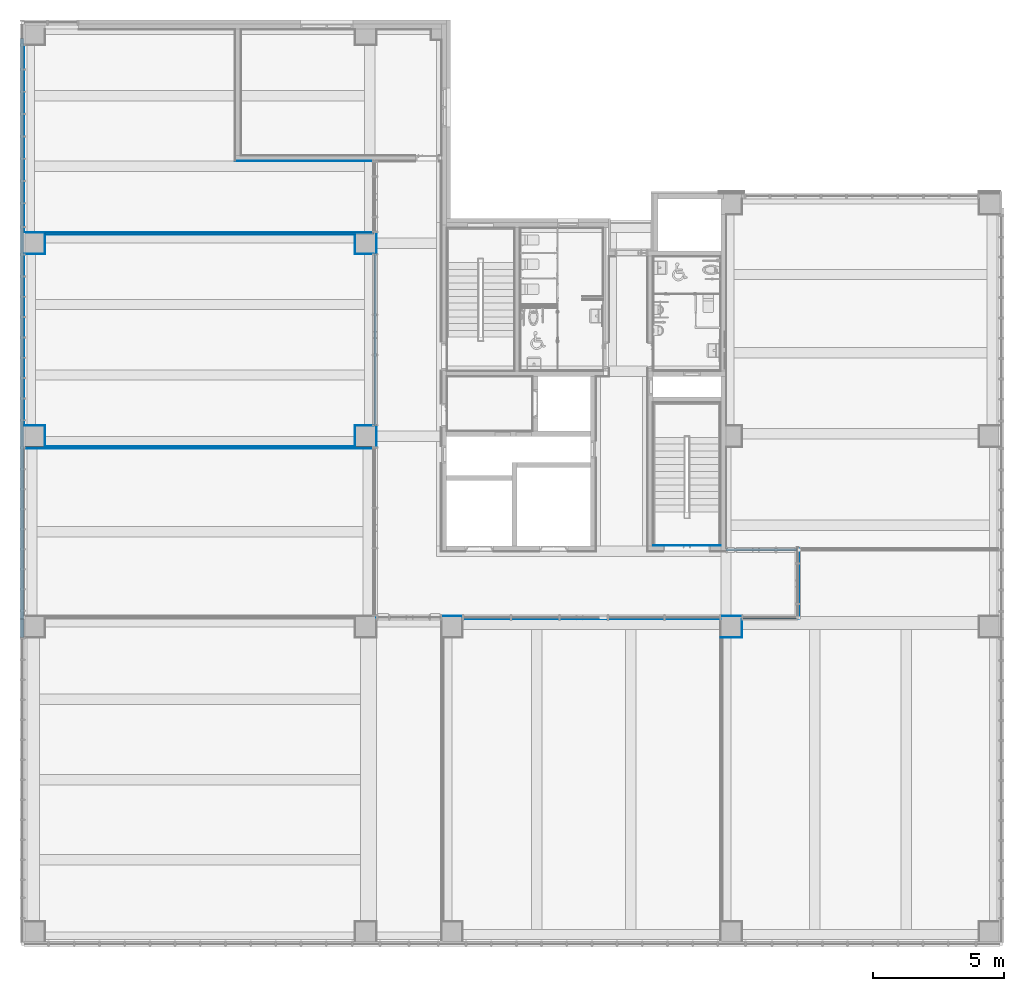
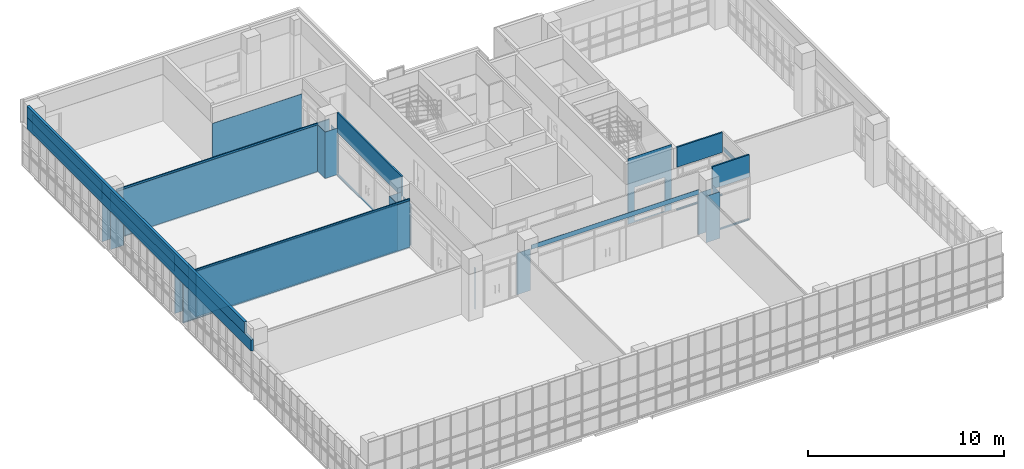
# One storey, part 47 of 76: 29 walls, 11 openings.
"""IFC2X3 building model written with IfcOpenShell, lengths in millimetres."""

from ifc_helpers import new_model, entity, si_unit, converted_unit, derived_unit, direction, frame, frame_2d, origin, place, context, subcontext, project, spatial, polyline, rectangle, outline, extrude, clip, bounded_halfspace, material, layer, layer_set, layer_usage, type_object, element, save


model = new_model("IFC2X3")

# Units and contexts
model_context = context("Model", 3, precision=0.01, world=origin(), true_north=direction((6.123031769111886e-17, 1.0)))
body_context = subcontext(model_context, "Body", "Model", "MODEL_VIEW")
ifc_project = project(units=[si_unit("LENGTHUNIT", "METRE", prefix="MILLI"), si_unit("AREAUNIT", "SQUARE_METRE"), si_unit("VOLUMEUNIT", "CUBIC_METRE"), converted_unit("PLANEANGLEUNIT", "DEGREE", entity("IfcRatioMeasure", 0.017453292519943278), si_unit("PLANEANGLEUNIT", "RADIAN"), dimensions=[0, 0, 0, 0, 0, 0, 0]), si_unit("MASSUNIT", "GRAM", prefix="KILO"), derived_unit("MASSDENSITYUNIT", [(si_unit("MASSUNIT", "GRAM", prefix="KILO"), 1), (si_unit("LENGTHUNIT", "METRE"), -3)]), derived_unit("MOMENTOFINERTIAUNIT", [(si_unit("LENGTHUNIT", "METRE"), 4)]), si_unit("TIMEUNIT", "SECOND"), si_unit("FREQUENCYUNIT", "HERTZ"), si_unit("THERMODYNAMICTEMPERATUREUNIT", "DEGREE_CELSIUS"), derived_unit("THERMALTRANSMITTANCEUNIT", [(si_unit("MASSUNIT", "GRAM", prefix="KILO"), 1), (si_unit("THERMODYNAMICTEMPERATUREUNIT", "KELVIN"), -1), (si_unit("TIMEUNIT", "SECOND"), -3)]), derived_unit("VOLUMETRICFLOWRATEUNIT", [(si_unit("LENGTHUNIT", "METRE"), 3), (si_unit("TIMEUNIT", "SECOND"), -1)]), derived_unit("MASSFLOWRATEUNIT", [(si_unit("MASSUNIT", "GRAM", prefix="KILO"), 1), (si_unit("TIMEUNIT", "SECOND"), -1)]), derived_unit("ROTATIONALFREQUENCYUNIT", [(si_unit("TIMEUNIT", "SECOND"), -1)]), si_unit("ELECTRICCURRENTUNIT", "AMPERE"), si_unit("ELECTRICVOLTAGEUNIT", "VOLT"), si_unit("POWERUNIT", "WATT"), si_unit("FORCEUNIT", "NEWTON", prefix="KILO"), si_unit("ILLUMINANCEUNIT", "LUX"), si_unit("LUMINOUSFLUXUNIT", "LUMEN"), si_unit("LUMINOUSINTENSITYUNIT", "CANDELA"), derived_unit("USERDEFINED", [(si_unit("MASSUNIT", "GRAM", prefix="KILO"), -1), (si_unit("LENGTHUNIT", "METRE"), -2), (si_unit("TIMEUNIT", "SECOND"), 3), (si_unit("LUMINOUSFLUXUNIT", "LUMEN"), 1)]), derived_unit("SOUNDPOWERUNIT", [(si_unit("MASSUNIT", "GRAM", prefix="KILO"), 1), (si_unit("LENGTHUNIT", "METRE"), 2), (si_unit("TIMEUNIT", "SECOND"), -3)]), derived_unit("SOUNDPRESSUREUNIT", [(si_unit("MASSUNIT", "GRAM", prefix="KILO"), 1), (si_unit("LENGTHUNIT", "METRE"), -1), (si_unit("TIMEUNIT", "SECOND"), -2)]), derived_unit("LINEARVELOCITYUNIT", [(si_unit("LENGTHUNIT", "METRE"), 1), (si_unit("TIMEUNIT", "SECOND"), -1)]), si_unit("PRESSUREUNIT", "PASCAL"), derived_unit("USERDEFINED", [(si_unit("LENGTHUNIT", "METRE"), -2), (si_unit("MASSUNIT", "GRAM", prefix="KILO"), 1), (si_unit("TIMEUNIT", "SECOND"), -2)]), derived_unit("LINEARFORCEUNIT", [(si_unit("MASSUNIT", "GRAM", prefix="KILO"), 1), (si_unit("LENGTHUNIT", "METRE"), 1), (si_unit("TIMEUNIT", "SECOND"), -2), (si_unit("LENGTHUNIT", "METRE"), -1)]), derived_unit("PLANARFORCEUNIT", [(si_unit("MASSUNIT", "GRAM", prefix="KILO"), 1), (si_unit("LENGTHUNIT", "METRE"), 1), (si_unit("TIMEUNIT", "SECOND"), -2), (si_unit("LENGTHUNIT", "METRE"), -2)])], contexts=[model_context])

# Site, building, storey
site_placement = place(None, frame((-14167.972527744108, -657.2125860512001, 0.0)))
site = spatial("IfcSite", under=ifc_project, at=site_placement, Name="Default", CompositionType="ELEMENT")
building_placement = place(site_placement, origin())
building = spatial("IfcBuilding", under=site, at=building_placement, Name="Sample Building", CompositionType="ELEMENT")
storey_placement = place(building_placement, frame((0.0, 0.0, 9300.0)))
storey = spatial("IfcBuildingStorey", under=building, at=storey_placement, Name="지상 3층", CompositionType="ELEMENT", Elevation=9300.000000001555)

# Walls
ifc_material_1 = material(Name="WA240-ALC블록벽")
ifc_layer_1 = layer(ifc_material_1, 35.0)
ifc_material_2 = material(Name="WA795-(STEEL)BRACKET")
ifc_layer_2 = layer(ifc_material_2, 65.0)
ifc_material_3 = material(Name="WA821-압출스티로폼 벽 (본드붙임, 비중0.03) 50mm")
ifc_layer_3 = layer(ifc_material_3, 50.0)
ifc_layer_set_1 = layer_set([ifc_layer_1, ifc_layer_2, ifc_layer_3], Name="기본 벽:A2-22-02A-압출스티로폼, BRACKET(STEEL), ALC블록 (150mm)")
ifc_layer_usage_1 = layer_usage(ifc_layer_set_1, "AXIS2", "POSITIVE", -75.0)
wall_type_1 = type_object("IfcWallType", Name="기본 벽:A2-22-02A-압출스티로폼, BRACKET(STEEL), ALC블록 (150mm)", PredefinedType="STANDARD", material=ifc_layer_set_1)
wall_1_placement = place(storey_placement, frame((13992.955105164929, 35207.21229514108, 3400.0), z_axis=(0.0, 0.0, 1.0), x_axis=(0.0, -1.0, 0.0)))
element("IfcWallStandardCase", 1, at=wall_1_placement, inside=storey, type_object=wall_type_1, material=ifc_layer_usage_1, Name="기본 벽:A2-22-02A-압출스티로폼, BRACKET(STEEL), ALC블록 (150mm)", ObjectType="기본 벽:A2-22-02A-압출스티로폼, BRACKET(STEEL), ALC블록 (150mm)", context=body_context, shape_type="SweptSolid", body=[
    extrude(rectangle(XDim=22250.03467074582, YDim=150.00000000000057, at=frame_2d((11125.01733537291, -6.181721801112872e-13), x_axis=(-1.0, 0.0))), origin(), (0.0, 0.0, 1.0), 700.000000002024),
])
ifc_material_4 = material(Name="KBIMS-DRY WALL")
ifc_layer_4 = layer(ifc_material_4, 12.5)
ifc_material_5 = material(Name="KBIMS-경량철골벽틀")
ifc_layer_5 = layer(ifc_material_5, 50.0)
ifc_layer_set_2 = layer_set([ifc_layer_4, ifc_layer_5], Name="기본 벽:WA731-DRY WALL(C50, GS12.5mm) (1겹한면, GW50mm) 62.5mm")
ifc_layer_usage_2 = layer_usage(ifc_layer_set_2, "AXIS2", "NEGATIVE", 31.250000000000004)
wall_type_2 = type_object("IfcWallType", Name="기본 벽:WA731-DRY WALL(C50, GS12.5mm) (1겹한면, GW50mm) 62.5mm", PredefinedType="STANDARD", material=ifc_layer_set_2)
wall_2_placement = place(storey_placement, frame((14867.972454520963, 27725.962586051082, -2.2989269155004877e-09)))
element("IfcWallStandardCase", 2, at=wall_2_placement, inside=storey, type_object=wall_type_2, material=ifc_layer_usage_2, Name="기본 벽:WA731-DRY WALL(C50, GS12.5mm) (1겹한면, GW50mm) 62.5mm", ObjectType="기본 벽:WA731-DRY WALL(C50, GS12.5mm) (1겹한면, GW50mm) 62.5mm", context=body_context, shape_type="SweptSolid", body=[
    extrude(rectangle(XDim=12600.007860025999, YDim=62.499999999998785, at=frame_2d((6300.003930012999, 2.168931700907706e-12), x_axis=(-1.0, 0.0))), origin(), (0.0, 0.0, 1.0), 3100.000000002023),
])
ifc_layer_usage_3 = layer_usage(ifc_layer_set_2, "AXIS2", "NEGATIVE", 31.250000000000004)
wall_3_placement = place(storey_placement, frame((14067.955105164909, 19525.9626170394, -2.2989269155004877e-09)))
element("IfcWallStandardCase", 3, at=wall_3_placement, inside=storey, type_object=wall_type_2, material=ifc_layer_usage_3, Name="기본 벽:WA731-DRY WALL(C50, GS12.5mm) (1겹한면, GW50mm) 62.5mm", ObjectType="기본 벽:WA731-DRY WALL(C50, GS12.5mm) (1겹한면, GW50mm) 62.5mm", context=body_context, shape_type="SweptSolid", body=[
    extrude(rectangle(XDim=13409.999999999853, YDim=62.49999999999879, at=frame_2d((6704.999999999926, 1.099564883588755e-12), x_axis=(-1.0, 0.0))), origin(), (0.0, 0.0, 1.0), 3100.000000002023),
])
ifc_material_6 = material(Name="WA785-금속외장패널")
ifc_layer_6 = layer(ifc_material_6, 25.0)
ifc_material_7 = material(Name="WA793-금속 긴결철물 벽")
ifc_layer_7 = layer(ifc_material_7, 75.0)
ifc_layer_8 = layer(ifc_material_3, 50.0)
ifc_layer_set_3 = layer_set([ifc_layer_6, ifc_layer_7, ifc_layer_8], Name="기본 벽:A2-26-01A-압출스티로폼, 금속 긴결철물, 금속외장패널 (150mm)")
ifc_layer_usage_4 = layer_usage(ifc_layer_set_3, "AXIS2", "POSITIVE", -75.0)
wall_type_3 = type_object("IfcWallType", Name="기본 벽:A2-26-01A-압출스티로폼, 금속 긴결철물, 금속외장패널 (150mm)", PredefinedType="STANDARD", material=ifc_layer_set_3)
wall_4_placement = place(storey_placement, frame((13992.955105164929, 35207.21229514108, 2700.0), z_axis=(0.0, 0.0, 1.0), x_axis=(0.0, -1.0, 0.0)))
element("IfcWallStandardCase", 4, at=wall_4_placement, inside=storey, type_object=wall_type_3, material=ifc_layer_usage_4, Name="기본 벽:A2-26-01A-압출스티로폼, 금속 긴결철물, 금속외장패널 (150mm)", ObjectType="기본 벽:A2-26-01A-압출스티로폼, 금속 긴결철물, 금속외장패널 (150mm)", context=body_context, shape_type="SweptSolid", body=[
    extrude(rectangle(XDim=22949.999709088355, YDim=150.00000000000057, at=frame_2d((11474.999854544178, 0.0), x_axis=(-1.0, 0.0))), origin(), (0.0, 0.0, 1.0), 700.000000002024),
])

# Wall, openings
ifc_material_8 = material(Name="KBIMS-시멘트 벽돌")
ifc_layer_9 = layer(ifc_material_8, 90.0)
ifc_layer_set_4 = layer_set([ifc_layer_9], Name="기본 벽:WA211-시멘트벽돌(일반) 벽 (0.5B) 90mm")
ifc_layer_usage_5 = layer_usage(ifc_layer_set_4, "AXIS2", "NEGATIVE", 45.0)
wall_type_4 = type_object("IfcWallType", Name="기본 벽:WA211-시멘트벽돌(일반) 벽 (0.5B) 90mm", PredefinedType="STANDARD", material=ifc_layer_set_4)
wall_5_placement = place(storey_placement, frame((27522.955105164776, 26957.21230799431, -2.297844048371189e-09), z_axis=(0.0, 0.0, 1.0), x_axis=(0.0, -1.0, 0.0)))
wall_5 = element("IfcWallStandardCase", 5, at=wall_5_placement, inside=storey, type_object=wall_type_4, material=ifc_layer_usage_5, Name="기본 벽:WA211-시멘트벽돌(일반) 벽 (0.5B) 90mm", ObjectType="기본 벽:WA211-시멘트벽돌(일반) 벽 (0.5B) 90mm", context=body_context, shape_type="Clipping", body=[
    clip(extrude(rectangle(XDim=6599.999999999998, YDim=90.0000000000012, at=frame_2d((3299.999999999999, -1.9682033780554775e-12), x_axis=(-1.0, 0.0))), origin(), (0.0, 0.0, 1.0), 3950.0000000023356), bounded_halfspace(frame((0.0, -45.0, 3950.0), z_axis=(0.0, 0.0, -1.0), x_axis=(0.0, 1.0, 0.0)), True, frame((0.0, -45.0, 3950.0), z_axis=(0.0, 0.0, -1.0), x_axis=(0.0, 1.0, 0.0)), polyline([(0.0, 0.0), (27432.0, 0.0), (27432.0, 2011680.0), (-2.6400300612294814e-09, 2011680.0), (0.0, 0.0)]))),
])
opening_1_placement = place(wall_5_placement, origin())
element("IfcOpeningElement", 6, at=opening_1_placement, cuts=wall_5, Name="기본 벽:WA211-시멘트벽돌(일반) 벽 (0.5B) 90mm", ObjectType="Opening", context=body_context, shape_type="SweptSolid", body=[
    extrude(rectangle(XDim=2620.000000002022, YDim=6599.999999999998, at=frame_2d((-5.684341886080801e-13, 0.0), x_axis=(1.0, 0.0))), frame((3300.0, -197.4000000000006, 1390.0), z_axis=(0.0, 1.0, 0.0), x_axis=(0.0, 0.0, 1.0)), (0.0, 0.0, 1.0), 394.8000000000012),
])
opening_2_placement = place(wall_5_placement, origin())
element("IfcOpeningElement", 7, at=opening_2_placement, cuts=wall_5, Name="기본 벽:WA211-시멘트벽돌(일반) 벽 (0.5B) 90mm", ObjectType="Opening", context=body_context, shape_type="SweptSolid", body=[
    extrude(rectangle(XDim=2620.0000000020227, YDim=2749.9999672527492, at=frame_2d((-1.1368683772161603e-12, -2.1600499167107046e-12), x_axis=(1.0, 0.0))), frame((-2174.999983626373, -197.40000000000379, 1390.0), z_axis=(0.0, 1.0, 0.0), x_axis=(0.0, 0.0, 1.0)), (0.0, 0.0, 1.0), 394.8000000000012),
])
opening_3_placement = place(wall_5_placement, origin())
element("IfcOpeningElement", 8, at=opening_3_placement, cuts=wall_5, Name="기본 벽:WA211-시멘트벽돌(일반) 벽 (0.5B) 90mm", ObjectType="Opening", context=body_context, shape_type="SweptSolid", body=[
    extrude(rectangle(XDim=2620.0000000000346, YDim=6500.034992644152, at=frame_2d((1.1368683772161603e-12, 0.0), x_axis=(1.0, 0.0))), frame((10650.017187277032, -197.40000000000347, 1390.0), z_axis=(0.0, 1.0, 0.0), x_axis=(0.0, 0.0, 1.0)), (0.0, 0.0, 1.0), 394.8000000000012),
])

# Wall, opening
ifc_layer_usage_6 = layer_usage(ifc_layer_set_4, "AXIS2", "NEGATIVE", 45.0)
wall_6_placement = place(storey_placement, frame((41567.955135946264, 13012.212383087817, -2.297844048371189e-09)))
wall_6 = element("IfcWallStandardCase", 9, at=wall_6_placement, inside=storey, type_object=wall_type_4, material=ifc_layer_usage_6, Name="기본 벽:WA211-시멘트벽돌(일반) 벽 (0.5B) 90mm", ObjectType="기본 벽:WA211-시멘트벽돌(일반) 벽 (0.5B) 90mm", context=body_context, shape_type="SweptSolid", body=[
    extrude(rectangle(XDim=2195.0173551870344, YDim=89.99999999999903, at=frame_2d((1097.5086775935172, 9.627854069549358e-13), x_axis=(-1.0, 0.0))), origin(), (0.0, 0.0, 1.0), 4100.0000000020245),
])
opening_4_placement = place(wall_6_placement, origin())
element("IfcOpeningElement", 10, at=opening_4_placement, cuts=wall_6, Name="기본 벽:WA211-시멘트벽돌(일반) 벽 (0.5B) 90mm", ObjectType="Opening", context=body_context, shape_type="SweptSolid", body=[
    extrude(rectangle(XDim=2620.0000000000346, YDim=2249.9999999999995, at=frame_2d((1.1368683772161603e-12, 4.320099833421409e-12), x_axis=(1.0, 0.0))), frame((1125.0025995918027, -197.39999999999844, 1390.0), z_axis=(0.0, 1.0, 0.0), x_axis=(0.0, 0.0, 1.0)), (0.0, 0.0, 1.0), 394.79999999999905),
])

# Wall, openings
ifc_layer_usage_7 = layer_usage(ifc_layer_set_4, "AXIS2", "POSITIVE", -45.0)
wall_7_placement = place(storey_placement, frame((43672.9724911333, 15607.177678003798, -2.297844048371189e-09), z_axis=(0.0, 0.0, 1.0), x_axis=(-1.0, 0.0, 0.0)))
wall_7 = element("IfcWallStandardCase", 11, at=wall_7_placement, inside=storey, type_object=wall_type_4, material=ifc_layer_usage_7, Name="기본 벽:WA211-시멘트벽돌(일반) 벽 (0.5B) 90mm", ObjectType="기본 벽:WA211-시멘트벽돌(일반) 벽 (0.5B) 90mm", context=body_context, shape_type="Clipping", body=[
    clip(extrude(rectangle(XDim=2705.008692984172, YDim=89.99999999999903, at=frame_2d((1352.504346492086, 1.0480505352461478e-12), x_axis=(-1.0, 0.0))), origin(), (0.0, 0.0, 1.0), 3950.0000000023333), bounded_halfspace(frame((0.0, -45.0, 3950.0), z_axis=(0.0, 0.0, -1.0), x_axis=(0.0, 1.0, 0.0)), True, frame((0.0, -45.0, 3950.0), z_axis=(0.0, 0.0, -1.0), x_axis=(0.0, 1.0, 0.0)), polyline([(0.0, 0.0), (27432.0, 0.0), (27432.0, 824486.6496215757), (-4.816592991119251e-09, 824486.6496215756), (0.0, 0.0)]))),
])
opening_5_placement = place(wall_7_placement, origin())
element("IfcOpeningElement", 12, at=opening_5_placement, cuts=wall_7, Name="기본 벽:WA211-시멘트벽돌(일반) 벽 (0.5B) 90mm", ObjectType="Opening", context=body_context, shape_type="SweptSolid", body=[
    extrude(rectangle(XDim=2099.9999999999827, YDim=1800.0000000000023, at=frame_2d((-5.684341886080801e-13, -2.1600499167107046e-12), x_axis=(1.0, 0.0))), frame((4205.008692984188, -1479.0345635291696, 1130.0), z_axis=(0.0, 1.0, 0.0), x_axis=(0.0, 0.0, 1.0)), (0.0, 0.0, 1.0), 3048.0),
])
opening_6_placement = place(wall_7_placement, origin())
element("IfcOpeningElement", 13, at=opening_6_placement, cuts=wall_7, Name="기본 벽:WA211-시멘트벽돌(일반) 벽 (0.5B) 90mm", ObjectType="Opening", context=body_context, shape_type="SweptSolid", body=[
    extrude(rectangle(XDim=2619.999999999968, YDim=2849.999999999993, at=frame_2d((-5.684341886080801e-13, 0.0), x_axis=(1.0, 0.0))), frame((1280.0086929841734, -197.39999999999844, 1390.0), z_axis=(0.0, 1.0, 0.0), x_axis=(0.0, 0.0, 1.0)), (0.0, 0.0, 1.0), 394.79999999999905),
])

ifc_material_9 = material(Name="WA611-수성페인트 (내부) 벽 (3회)")
ifc_layer_10 = layer(ifc_material_9, 1.0)
ifc_material_10 = material(Name="WA551-시멘트모르타르 (내부) 벽 18mm")
ifc_layer_11 = layer(ifc_material_10, 16.0)
ifc_material_11 = material(Name="WA555-콘크리트면정리 벽 (내부)")
ifc_layer_12 = layer(ifc_material_11, 1.0)
ifc_layer_set_5 = layer_set([ifc_layer_10, ifc_layer_11, ifc_layer_12], Name="기본 벽:A1-32-06A-콘크리트면정리, 시멘트모르타르(미장용), 수성페인트(내부) (18mm)")
ifc_layer_usage_8 = layer_usage(ifc_layer_set_5, "AXIS2", "POSITIVE", -9.000000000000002)
wall_type_5 = type_object("IfcWallType", Name="기본 벽:A1-32-06A-콘크리트면정리, 시멘트모르타르(미장용), 수성페인트(내부) (18mm)", PredefinedType="STANDARD", material=ifc_layer_set_5)
wall_8_placement = place(storey_placement, frame((40767.71145792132, 15766.212295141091, 0.0), z_axis=(0.0, 0.0, 1.0), x_axis=(-1.0, 0.0, 0.0)))
wall_8 = element("IfcWallStandardCase", 14, at=wall_8_placement, inside=storey, type_object=wall_type_5, material=ifc_layer_usage_8, Name="기본 벽:A1-32-06A-콘크리트면정리, 시멘트모르타르(미장용), 수성페인트(내부) (18mm)", ObjectType="기본 벽:A1-32-06A-콘크리트면정리, 시멘트모르타르(미장용), 수성페인트(내부) (18mm)", context=body_context, shape_type="SweptSolid", body=[
    extrude(rectangle(XDim=2582.008673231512, YDim=18.000000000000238, at=frame_2d((1291.004336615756, 0.0), x_axis=(-1.0, 0.0))), origin(), (0.0, 0.0, 1.0), 4100.000000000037),
])
opening_7_placement = place(wall_8_placement, origin())
element("IfcOpeningElement", 15, at=opening_7_placement, cuts=wall_8, Name="기본 벽:A1-32-06A-콘크리트면정리, 시멘트모르타르(미장용), 수성페인트(내부) (18mm)", ObjectType="Opening", context=body_context, shape_type="SweptSolid", body=[
    extrude(rectangle(XDim=2099.9999999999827, YDim=1800.0000000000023, at=frame_2d((-5.684341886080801e-13, -2.1600499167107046e-12), x_axis=(1.0, 0.0))), frame((1299.7476597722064, -1319.9999463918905, 1130.0), z_axis=(0.0, 1.0, 0.0), x_axis=(0.0, 0.0, 1.0)), (0.0, 0.0, 1.0), 3048.0),
])
opening_8_placement = place(wall_8_placement, origin())
element("IfcOpeningElement", 16, at=opening_8_placement, cuts=wall_8, Name="기본 벽:A1-32-06A-콘크리트면정리, 시멘트모르타르(미장용), 수성페인트(내부) (18mm)", ObjectType="Opening", context=body_context, shape_type="SweptSolid", body=[
    extrude(rectangle(XDim=2619.999999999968, YDim=2849.999999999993, at=frame_2d((-5.684341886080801e-13, 0.0), x_axis=(1.0, 0.0))), frame((-1625.2523402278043, -161.40000000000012, 1390.0), z_axis=(0.0, 1.0, 0.0), x_axis=(0.0, 0.0, 1.0)), (0.0, 0.0, 1.0), 322.80000000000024),
])

# Walls
ifc_layer_usage_9 = layer_usage(ifc_layer_set_5, "AXIS2", "NEGATIVE", 9.000000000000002)
wall_9_placement = place(storey_placement, frame((27459.980314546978, 30498.21227524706, 80.0), z_axis=(0.0, 0.0, 1.0), x_axis=(-1.0, 0.0, 0.0)))
element("IfcWallStandardCase", 17, at=wall_9_placement, inside=storey, type_object=wall_type_5, material=ifc_layer_usage_9, Name="기본 벽:A1-32-06A-콘크리트면정리, 시멘트모르타르(미장용), 수성페인트(내부) (18mm)", ObjectType="기본 벽:A1-32-06A-콘크리트면정리, 시멘트모르타르(미장용), 수성페인트(내부) (18mm)", context=body_context, shape_type="SweptSolid", body=[
    extrude(rectangle(XDim=5310.00782341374, YDim=18.00000000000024, at=frame_2d((2655.00391170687, -2.1662671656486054e-12), x_axis=(-1.0, 0.0))), origin(), (0.0, 0.0, 1.0), 2899.999999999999),
])
ifc_layer_usage_10 = layer_usage(ifc_layer_set_5, "AXIS2", "NEGATIVE", 9.000000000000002)
wall_10_placement = place(storey_placement, frame((14067.95510516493, 27766.21230799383, 80.0)))
element("IfcWallStandardCase", 18, at=wall_10_placement, inside=storey, type_object=wall_type_5, material=ifc_layer_usage_10, Name="기본 벽:A1-32-06A-콘크리트면정리, 시멘트모르타르(미장용), 수성페인트(내부) (18mm)", ObjectType="기본 벽:A1-32-06A-콘크리트면정리, 시멘트모르타르(미장용), 수성페인트(내부) (18mm)", context=body_context, shape_type="SweptSolid", body=[
    extrude(rectangle(XDim=13392.025209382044, YDim=18.00000000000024, at=frame_2d((6696.012604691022, -2.097877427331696e-12), x_axis=(-1.0, 0.0))), origin(), (0.0, 0.0, 1.0), 2899.999999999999),
])
ifc_layer_usage_11 = layer_usage(ifc_layer_set_5, "AXIS2", "NEGATIVE", 9.000000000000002)
wall_11_placement = place(storey_placement, frame((27478.06176345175, 26948.21230799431, 80.0), z_axis=(0.0, 0.0, 1.0), x_axis=(-1.0, 0.0, 0.0)))
element("IfcWallStandardCase", 19, at=wall_11_placement, inside=storey, type_object=wall_type_5, material=ifc_layer_usage_11, Name="기본 벽:A1-32-06A-콘크리트면정리, 시멘트모르타르(미장용), 수성페인트(내부) (18mm)", ObjectType="기본 벽:A1-32-06A-콘크리트면정리, 시멘트모르타르(미장용), 수성페인트(내부) (18mm)", context=body_context, shape_type="SweptSolid", body=[
    extrude(rectangle(XDim=728.106621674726, YDim=18.00000000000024, at=frame_2d((364.053310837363, -2.1662671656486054e-12), x_axis=(-1.0, 0.0))), origin(), (0.0, 0.0, 1.0), 2899.999999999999),
])
ifc_layer_usage_12 = layer_usage(ifc_layer_set_5, "AXIS2", "NEGATIVE", 9.000000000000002)
wall_12_placement = place(storey_placement, frame((26758.955141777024, 26957.21230799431, 80.0), z_axis=(0.0, 0.0, 1.0), x_axis=(0.0, 1.0, 0.0)))
element("IfcWallStandardCase", 20, at=wall_12_placement, inside=storey, type_object=wall_type_5, material=ifc_layer_usage_12, Name="기본 벽:A1-32-06A-콘크리트면정리, 시멘트모르타르(미장용), 수성페인트(내부) (18mm)", ObjectType="기본 벽:A1-32-06A-콘크리트면정리, 시멘트모르타르(미장용), 수성페인트(내부) (18mm)", context=body_context, shape_type="SweptSolid", body=[
    extrude(rectangle(XDim=737.5002780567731, YDim=18.00000000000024, at=frame_2d((368.75013902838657, -2.1662671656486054e-12), x_axis=(-1.0, 0.0))), origin(), (0.0, 0.0, 1.0), 2899.999999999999),
])
ifc_layer_usage_13 = layer_usage(ifc_layer_set_5, "AXIS2", "NEGATIVE", 9.000000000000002)
wall_13_placement = place(storey_placement, frame((26749.955141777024, 27685.712586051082, 80.0), z_axis=(0.0, 0.0, 1.0), x_axis=(-1.0, 0.0, 0.0)))
element("IfcWallStandardCase", 21, at=wall_13_placement, inside=storey, type_object=wall_type_5, material=ifc_layer_usage_13, Name="기본 벽:A1-32-06A-콘크리트면정리, 시멘트모르타르(미장용), 수성페인트(내부) (18mm)", ObjectType="기본 벽:A1-32-06A-콘크리트면정리, 시멘트모르타르(미장용), 수성페인트(내부) (18mm)", context=body_context, shape_type="SweptSolid", body=[
    extrude(rectangle(XDim=11882.000055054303, YDim=18.00000000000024, at=frame_2d((5941.000027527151, -2.1662671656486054e-12), x_axis=(-1.0, 0.0))), origin(), (0.0, 0.0, 1.0), 2899.999999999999),
])
ifc_layer_usage_14 = layer_usage(ifc_layer_set_5, "AXIS2", "NEGATIVE", 9.000000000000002)
wall_14_placement = place(storey_placement, frame((14876.95508672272, 27676.712586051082, 80.0), z_axis=(0.0, 0.0, 1.0), x_axis=(0.0, -1.0, 0.0)))
element("IfcWallStandardCase", 22, at=wall_14_placement, inside=storey, type_object=wall_type_5, material=ifc_layer_usage_14, Name="기본 벽:A1-32-06A-콘크리트면정리, 시멘트모르타르(미장용), 수성페인트(내부) (18mm)", ObjectType="기본 벽:A1-32-06A-콘크리트면정리, 시멘트모르타르(미장용), 수성페인트(내부) (18mm)", context=body_context, shape_type="SweptSolid", body=[
    extrude(rectangle(XDim=737.5002780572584, YDim=18.000000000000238, at=frame_2d((368.7501390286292, 0.0), x_axis=(-1.0, 0.0))), origin(), (0.0, 0.0, 1.0), 2899.999999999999),
])
ifc_layer_usage_15 = layer_usage(ifc_layer_set_5, "AXIS2", "NEGATIVE", 9.000000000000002)
wall_15_placement = place(storey_placement, frame((14867.95508672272, 26948.21230799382, 80.0), z_axis=(0.0, 0.0, 1.0), x_axis=(-1.0, 0.0, 0.0)))
element("IfcWallStandardCase", 23, at=wall_15_placement, inside=storey, type_object=wall_type_5, material=ifc_layer_usage_15, Name="기본 벽:A1-32-06A-콘크리트면정리, 시멘트모르타르(미장용), 수성페인트(내부) (18mm)", ObjectType="기본 벽:A1-32-06A-콘크리트면정리, 시멘트모르타르(미장용), 수성페인트(내부) (18mm)", context=body_context, shape_type="SweptSolid", body=[
    extrude(rectangle(XDim=781.9999815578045, YDim=18.00000000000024, at=frame_2d((390.99999077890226, -2.1662671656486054e-12), x_axis=(-1.0, 0.0))), origin(), (0.0, 0.0, 1.0), 2899.999999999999),
])
ifc_layer_usage_16 = layer_usage(ifc_layer_set_5, "AXIS2", "NEGATIVE", 9.000000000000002)
wall_16_placement = place(storey_placement, frame((14085.955105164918, 20366.212307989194, 80.0)))
element("IfcWallStandardCase", 24, at=wall_16_placement, inside=storey, type_object=wall_type_5, material=ifc_layer_usage_16, Name="기본 벽:A1-32-06A-콘크리트면정리, 시멘트모르타르(미장용), 수성페인트(내부) (18mm)", ObjectType="기본 벽:A1-32-06A-콘크리트면정리, 시멘트모르타르(미장용), 수성페인트(내부) (18mm)", context=body_context, shape_type="SweptSolid", body=[
    extrude(rectangle(XDim=799.9999815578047, YDim=18.00000000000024, at=frame_2d((399.9999907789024, -2.1662671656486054e-12), x_axis=(-1.0, 0.0))), origin(), (0.0, 0.0, 1.0), 2899.999999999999),
])
ifc_layer_usage_17 = layer_usage(ifc_layer_set_5, "AXIS2", "NEGATIVE", 9.000000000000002)
wall_17_placement = place(storey_placement, frame((14885.955086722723, 19566.2126170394, 80.0)))
element("IfcWallStandardCase", 25, at=wall_17_placement, inside=storey, type_object=wall_type_5, material=ifc_layer_usage_17, Name="기본 벽:A1-32-06A-콘크리트면정리, 시멘트모르타르(미장용), 수성페인트(내부) (18mm)", ObjectType="기본 벽:A1-32-06A-콘크리트면정리, 시멘트모르타르(미장용), 수성페인트(내부) (18mm)", context=body_context, shape_type="SweptSolid", body=[
    extrude(rectangle(XDim=11882.000055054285, YDim=18.00000000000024, at=frame_2d((5941.000027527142, -1.3509193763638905e-12), x_axis=(-1.0, 0.0))), origin(), (0.0, 0.0, 1.0), 2899.999999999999),
])
ifc_layer_usage_18 = layer_usage(ifc_layer_set_5, "AXIS2", "NEGATIVE", 9.000000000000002)
wall_18_placement = place(storey_placement, frame((26758.955141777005, 19575.212617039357, 80.0), z_axis=(0.0, 0.0, 1.0), x_axis=(0.0, 1.0, 0.0)))
element("IfcWallStandardCase", 26, at=wall_18_placement, inside=storey, type_object=wall_type_5, material=ifc_layer_usage_18, Name="기본 벽:A1-32-06A-콘크리트면정리, 시멘트모르타르(미장용), 수성페인트(내부) (18mm)", ObjectType="기본 벽:A1-32-06A-콘크리트면정리, 시멘트모르타르(미장용), 수성페인트(내부) (18mm)", context=body_context, shape_type="SweptSolid", body=[
    extrude(rectangle(XDim=799.9996909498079, YDim=18.00000000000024, at=frame_2d((399.99984547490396, -2.1662671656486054e-12), x_axis=(-1.0, 0.0))), origin(), (0.0, 0.0, 1.0), 2899.999999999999),
])
ifc_layer_usage_19 = layer_usage(ifc_layer_set_5, "AXIS2", "NEGATIVE", 9.000000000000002)
wall_19_placement = place(storey_placement, frame((26767.95514177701, 20366.212307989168, 80.0)))
element("IfcWallStandardCase", 27, at=wall_19_placement, inside=storey, type_object=wall_type_5, material=ifc_layer_usage_19, Name="기본 벽:A1-32-06A-콘크리트면정리, 시멘트모르타르(미장용), 수성페인트(내부) (18mm)", ObjectType="기본 벽:A1-32-06A-콘크리트면정리, 시멘트모르타르(미장용), 수성페인트(내부) (18mm)", context=body_context, shape_type="SweptSolid", body=[
    extrude(rectangle(XDim=709.9999633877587, YDim=18.00000000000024, at=frame_2d((354.99998169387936, -2.1662671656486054e-12), x_axis=(-1.0, 0.0))), origin(), (0.0, 0.0, 1.0), 2899.999999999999),
])
ifc_layer_usage_20 = layer_usage(ifc_layer_set_5, "AXIS2", "POSITIVE", -9.000000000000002)
wall_20_placement = place(storey_placement, frame((14085.955105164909, 19485.712617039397, 80.0)))
element("IfcWallStandardCase", 28, at=wall_20_placement, inside=storey, type_object=wall_type_5, material=ifc_layer_usage_20, Name="기본 벽:A1-32-06A-콘크리트면정리, 시멘트모르타르(미장용), 수성페인트(내부) (18mm)", ObjectType="기본 벽:A1-32-06A-콘크리트면정리, 시멘트모르타르(미장용), 수성페인트(내부) (18mm)", context=body_context, shape_type="SweptSolid", body=[
    extrude(rectangle(XDim=13373.999999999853, YDim=18.000000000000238, at=frame_2d((6686.999999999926, -2.7533531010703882e-14), x_axis=(-1.0, 0.0))), origin(), (0.0, 0.0, 1.0), 2899.999999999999),
])

# Wall, openings
ifc_layer_usage_21 = layer_usage(ifc_layer_set_5, "AXIS2", "POSITIVE", -9.000000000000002)
wall_21_placement = place(storey_placement, frame((30867.95511434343, 12958.194878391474, 2700.0)))
wall_21 = element("IfcWallStandardCase", 29, at=wall_21_placement, inside=storey, type_object=wall_type_5, material=ifc_layer_usage_21, Name="기본 벽:A1-32-06A-콘크리트면정리, 시멘트모르타르(미장용), 수성페인트(내부) (18mm)", ObjectType="기본 벽:A1-32-06A-콘크리트면정리, 시멘트모르타르(미장용), 수성페인트(내부) (18mm)", context=body_context, shape_type="SweptSolid", body=[
    extrude(rectangle(XDim=9900.017376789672, YDim=18.000000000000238, at=frame_2d((4950.008688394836, 5.826450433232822e-13), x_axis=(1.0, 0.0))), origin(), (0.0, 0.0, 1.0), 280.0000000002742),
])
opening_9_placement = place(wall_21_placement, origin())
element("IfcOpeningElement", 30, at=opening_9_placement, cuts=wall_21, Name="기본 벽:A1-32-06A-콘크리트면정리, 시멘트모르타르(미장용), 수성페인트(내부) (18mm)", ObjectType="Opening", context=body_context, shape_type="SweptSolid", body=[
    extrude(outline(polyline([(-1446.2500000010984, -5177.504344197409), (1173.7500000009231, -5177.504344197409), (1173.7500000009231, -522.5043441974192), (-901.2500000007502, -522.5043441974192), (-901.2500000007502, 977.495655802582), (1173.7500000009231, 977.495655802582), (1173.7500000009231, 4722.513032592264), (-1446.2500000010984, 4722.513032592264), (-1446.2500000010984, -5177.504344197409)])), frame((4722.513032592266, -161.39999999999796, -1446.2500000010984), z_axis=(0.0, 1.0, 0.0), x_axis=(0.0, 0.0, -1.0)), (0.0, 0.0, 1.0), 322.80000000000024),
])
opening_10_placement = place(wall_21_placement, origin())
element("IfcOpeningElement", 31, at=opening_10_placement, cuts=wall_21, Name="기본 벽:A1-32-06A-콘크리트면정리, 시멘트모르타르(미장용), 수성페인트(내부) (18mm)", ObjectType="Opening", context=body_context, shape_type="SweptSolid", body=[
    extrude(rectangle(XDim=2099.9999999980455, YDim=1500.0000000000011, at=frame_2d((-2.1600499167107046e-12, 0.0), x_axis=(0.0, 1.0))), frame((4495.017376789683, -1515.0, -1595.0), z_axis=(0.0, 1.0, 0.0), x_axis=(-1.0, 0.0, 0.0)), (0.0, 0.0, 1.0), 3048.0),
])

# Walls
ifc_layer_usage_22 = layer_usage(ifc_layer_set_5, "AXIS2", "POSITIVE", -9.000000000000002)
wall_22_placement = place(storey_placement, frame((40767.95514177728, 12248.21230798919, 80.0)))
element("IfcWallStandardCase", 32, at=wall_22_placement, inside=storey, type_object=wall_type_5, material=ifc_layer_usage_22, Name="기본 벽:A1-32-06A-콘크리트면정리, 시멘트모르타르(미장용), 수성페인트(내부) (18mm)", ObjectType="기본 벽:A1-32-06A-콘크리트면정리, 시멘트모르타르(미장용), 수성페인트(내부) (18mm)", context=body_context, shape_type="SweptSolid", body=[
    extrude(rectangle(XDim=817.7563358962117, YDim=18.000000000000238, at=frame_2d((408.87816794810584, 0.0), x_axis=(-1.0, 0.0))), origin(), (0.0, 0.0, 1.0), 2899.999999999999),
])
ifc_layer_usage_23 = layer_usage(ifc_layer_set_5, "AXIS2", "POSITIVE", -9.000000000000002)
wall_23_placement = place(storey_placement, frame((41576.711477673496, 12257.21230798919, 80.0), z_axis=(0.0, 0.0, 1.0), x_axis=(0.0, 1.0, 0.0)))
element("IfcWallStandardCase", 33, at=wall_23_placement, inside=storey, type_object=wall_type_5, material=ifc_layer_usage_23, Name="기본 벽:A1-32-06A-콘크리트면정리, 시멘트모르타르(미장용), 수성페인트(내부) (18mm)", ObjectType="기본 벽:A1-32-06A-콘크리트면정리, 시멘트모르타르(미장용), 수성페인트(내부) (18mm)", context=body_context, shape_type="SweptSolid", body=[
    extrude(rectangle(XDim=692.0000750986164, YDim=17.999999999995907, at=frame_2d((346.0000375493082, 0.0), x_axis=(-1.0, 0.0))), origin(), (0.0, 0.0, 1.0), 2899.999999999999),
])

# Wall, opening
ifc_layer_usage_24 = layer_usage(ifc_layer_set_5, "AXIS2", "POSITIVE", -9.000000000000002)
wall_24_placement = place(storey_placement, frame((43771.711477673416, 12967.212383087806, 2700.0), z_axis=(0.0, 0.0, 1.0), x_axis=(0.0, 1.0, 0.0)))
wall_24 = element("IfcWallStandardCase", 34, at=wall_24_placement, inside=storey, type_object=wall_type_5, material=ifc_layer_usage_24, Name="기본 벽:A1-32-06A-콘크리트면정리, 시멘트모르타르(미장용), 수성페인트(내부) (18mm)", ObjectType="기본 벽:A1-32-06A-콘크리트면정리, 시멘트모르타르(미장용), 수성페인트(내부) (18mm)", context=body_context, shape_type="SweptSolid", body=[
    extrude(outline(polyline([(0.0, -9.0), (2689.965241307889, -9.0), (2689.965241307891, 3.7476487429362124), (2679.98405036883, 9.0), (90.0, 9.0), (0.0, 9.0), (0.0, -9.0)])), origin(), (0.0, 0.0, 1.0), 280.0000000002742),
])
opening_11_placement = place(wall_24_placement, origin())
element("IfcOpeningElement", 35, at=opening_11_placement, cuts=wall_24, Name="기본 벽:A1-32-06A-콘크리트면정리, 시멘트모르타르(미장용), 수성페인트(내부) (18mm)", ObjectType="Opening", context=body_context, shape_type="SweptSolid", body=[
    extrude(rectangle(XDim=2620.0000000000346, YDim=2750.000000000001, at=frame_2d((1.1368683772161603e-12, -1.0231815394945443e-12), x_axis=(1.0, 0.0))), frame((1365.0002029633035, -161.39999999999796, -1310.0), z_axis=(0.0, 1.0, 0.0), x_axis=(0.0, 0.0, 1.0)), (0.0, 0.0, 1.0), 322.7999999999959),
])

# Walls
ifc_layer_usage_25 = layer_usage(ifc_layer_set_5, "AXIS2", "NEGATIVE", 9.000000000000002)
wall_25_placement = place(storey_placement, frame((14876.95508672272, 20357.212307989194, 80.0), z_axis=(0.0, 0.0, 1.0), x_axis=(0.0, -1.0, 0.0)))
element("IfcWallStandardCase", 36, at=wall_25_placement, inside=storey, type_object=wall_type_5, material=ifc_layer_usage_25, Name="기본 벽:A1-32-06A-콘크리트면정리, 시멘트모르타르(미장용), 수성페인트(내부) (18mm)", ObjectType="기본 벽:A1-32-06A-콘크리트면정리, 시멘트모르타르(미장용), 수성페인트(내부) (18mm)", context=body_context, shape_type="SweptSolid", body=[
    extrude(rectangle(XDim=799.999690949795, YDim=18.000000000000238, at=frame_2d((399.9998454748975, 0.0), x_axis=(-1.0, 0.0))), origin(), (0.0, 0.0, 1.0), 2899.999999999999),
])
ifc_layer_usage_26 = layer_usage(ifc_layer_set_5, "AXIS2", "POSITIVE", -9.000000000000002)
wall_26_placement = place(storey_placement, frame((14076.955105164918, 20357.21261703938, 2700.0), z_axis=(0.0, 0.0, 1.0), x_axis=(0.0, 1.0, 0.0)))
element("IfcWallStandardCase", 37, at=wall_26_placement, inside=storey, type_object=wall_type_5, material=ifc_layer_usage_26, Name="기본 벽:A1-32-06A-콘크리트면정리, 시멘트모르타르(미장용), 수성페인트(내부) (18mm)", ObjectType="기본 벽:A1-32-06A-콘크리트면정리, 시멘트모르타르(미장용), 수성페인트(내부) (18mm)", context=body_context, shape_type="SweptSolid", body=[
    extrude(rectangle(XDim=6599.999690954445, YDim=18.000000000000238, at=frame_2d((3299.9998454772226, 0.0), x_axis=(-1.0, 0.0))), origin(), (0.0, 0.0, 1.0), 1000.0000000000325),
])
ifc_layer_usage_27 = layer_usage(ifc_layer_set_5, "AXIS2", "POSITIVE", -9.000000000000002)
wall_27_placement = place(storey_placement, frame((14076.95510516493, 27775.212307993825, 2700.0), z_axis=(0.0, 0.0, 1.0), x_axis=(0.0, 1.0, 0.0)))
element("IfcWallStandardCase", 38, at=wall_27_placement, inside=storey, type_object=wall_type_5, material=ifc_layer_usage_27, Name="기본 벽:A1-32-06A-콘크리트면정리, 시멘트모르타르(미장용), 수성페인트(내부) (18mm)", ObjectType="기본 벽:A1-32-06A-콘크리트면정리, 시멘트모르타르(미장용), 수성페인트(내부) (18mm)", context=body_context, shape_type="SweptSolid", body=[
    extrude(rectangle(XDim=7163.999972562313, YDim=18.000000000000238, at=frame_2d((3581.9999862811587, 0.0), x_axis=(-1.0, 0.0))), origin(), (0.0, 0.0, 1.0), 1000.0000000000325),
])
ifc_layer_13 = layer(ifc_material_9, 1.0)
ifc_material_12 = material(Name="WA551-시멘트모르타르 (내부) 벽 24mm")
ifc_layer_14 = layer(ifc_material_12, 21.0)
ifc_material_13 = material(Name="WA961-바닥방수 연장")
ifc_layer_15 = layer(ifc_material_13, 1.0)
ifc_layer_16 = layer(ifc_material_11, 1.0)
ifc_layer_set_6 = layer_set([ifc_layer_13, ifc_layer_14, ifc_layer_15, ifc_layer_16], Name="기본 벽:A1-32-07A-콘크리트면정리, 바닥방수연장, 시멘트모르타르(미장용), 수성페인트(내부) (24mm)")
wall_type_6 = type_object("IfcWallType", Name="기본 벽:A1-32-07A-콘크리트면정리, 바닥방수연장, 시멘트모르타르(미장용), 수성페인트(내부) (24mm)", PredefinedType="STANDARD", material=ifc_layer_set_6)
wall_28_placement = place(storey_placement, frame((27579.955105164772, 27757.21230799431, 80.0), z_axis=(0.0, 0.0, 1.0), x_axis=(0.0, -1.0, 0.0)))
element("IfcWall", 39, at=wall_28_placement, inside=storey, type_object=wall_type_6, Name="기본 벽:A1-32-07A-콘크리트면정리, 바닥방수연장, 시멘트모르타르(미장용), 수성페인트(내부) (24mm)", ObjectType="기본 벽:A1-32-07A-콘크리트면정리, 바닥방수연장, 시멘트모르타르(미장용), 수성페인트(내부) (24mm)", context=body_context, shape_type="SweptSolid", body=[
    extrude(rectangle(XDim=800.0, YDim=23.999999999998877, at=frame_2d((-4.348521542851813e-12, 2.1662671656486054e-12), x_axis=(1.0, 0.0))), frame((400.0, 0.0, 0.0)), (0.0, 0.0, 1.0), 2600.0000000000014),
    extrude(rectangle(XDim=44.965316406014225, YDim=23.999999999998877, at=frame_2d((-1.0818013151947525e-12, -2.1662671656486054e-12), x_axis=(1.0, 0.0))), frame((14722.517341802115, 0.0, 0.0), z_axis=(0.0, 0.0, 1.0), x_axis=(-1.0, 0.0, 0.0)), (0.0, 0.0, 1.0), 2600.0000000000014),
    extrude(rectangle(XDim=799.999690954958, YDim=23.999999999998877, at=frame_2d((2.1600499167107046e-12, -2.1662671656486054e-12), x_axis=(1.0, 0.0))), frame((7799.9998454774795, 0.0, 0.0), z_axis=(0.0, 0.0, 1.0), x_axis=(-1.0, 0.0, 0.0)), (0.0, 0.0, 1.0), 2600.0000000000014),
])
wall_29_placement = place(storey_placement, frame((30067.972463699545, 13069.212307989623, 80.0)))
element("IfcWall", 40, at=wall_29_placement, inside=storey, type_object=wall_type_6, Name="기본 벽:A1-32-07A-콘크리트면정리, 바닥방수연장, 시멘트모르타르(미장용), 수성페인트(내부) (24mm)", ObjectType="기본 벽:A1-32-07A-콘크리트면정리, 바닥방수연장, 시멘트모르타르(미장용), 수성페인트(내부) (24mm)", context=body_context, shape_type="SweptSolid", body=[
    extrude(rectangle(XDim=799.982650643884, YDim=24.00000000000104, at=frame_2d((2.1600499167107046e-12, 0.0), x_axis=(1.0, 0.0))), frame((399.9913253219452, 0.0, 0.0), z_axis=(0.0, 0.0, 1.0), x_axis=(-1.0, 0.0, 0.0)), (0.0, 0.0, 1.0), 2600.0000000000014),
    extrude(rectangle(XDim=799.9852444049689, YDim=24.00000000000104, at=frame_2d((-4.348521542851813e-12, 0.0), x_axis=(1.0, 0.0))), frame((11099.992649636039, 0.0, 0.0), z_axis=(0.0, 0.0, 1.0), x_axis=(-1.0, 0.0, 0.0)), (0.0, 0.0, 1.0), 2600.0000000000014),
])

save(model, "model.ifc")
